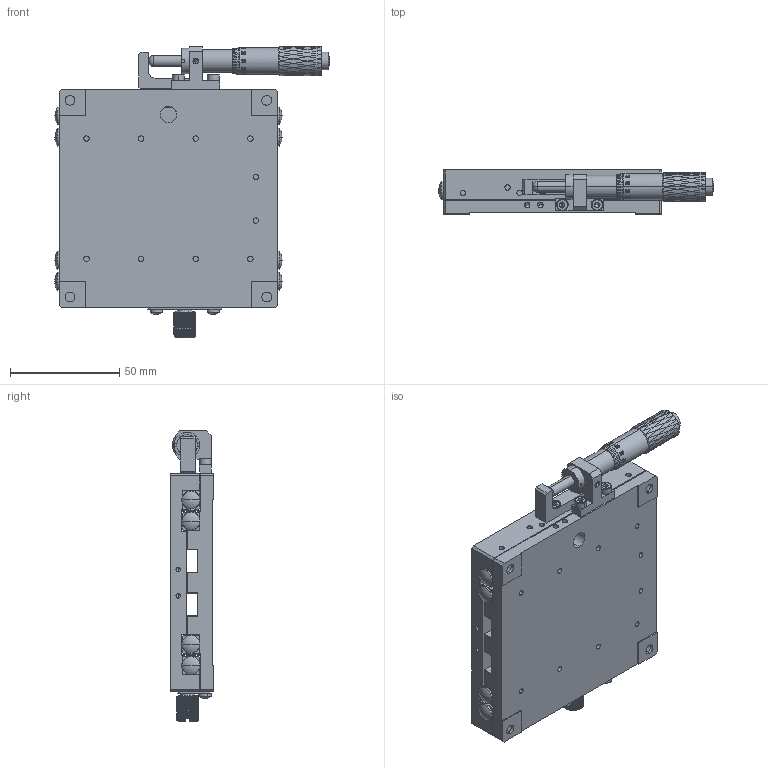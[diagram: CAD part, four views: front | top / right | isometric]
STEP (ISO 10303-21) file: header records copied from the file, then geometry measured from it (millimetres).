
FILE_DESCRIPTION (( 'STEP AP203' ), '1' );
FILE_NAME ('BPA100.STEP', '2023-12-02T03:14:53', ( 'China' ), ( 'Microsoft' ), 'SwSTEP 2.0', 'SolidWorks 2024', '' );
FILE_SCHEMA (( 'CONFIG_CONTROL_DESIGN' ));
Products named in the file (1): BPA100
Bounding box: 125.6 x 20 x 133.15 mm (x, y, z)
Volume: 180701.1 mm3; surface area: 86776.5 mm2
Topology: 22 solids, 22 shells, 2306 faces, 6027 edges, 3845 vertices
Faces by surface type: plane 742, cylinder 614, bspline 564, cone 354, torus 26, sphere 6
Entity records: 115725 total; most frequent: CARTESIAN_POINT 64534, ORIENTED_EDGE 11930, DIRECTION 8333, EDGE_CURVE 5965, VERTEX_POINT 3845, AXIS2_PLACEMENT_3D 3062, EDGE_LOOP 2720, ADVANCED_FACE 2306
